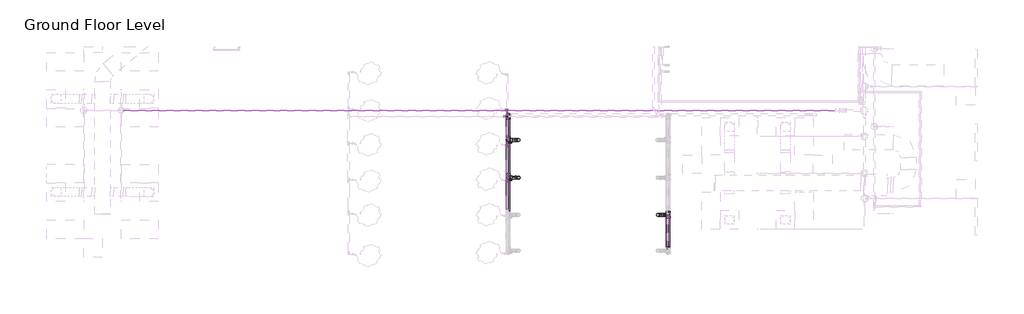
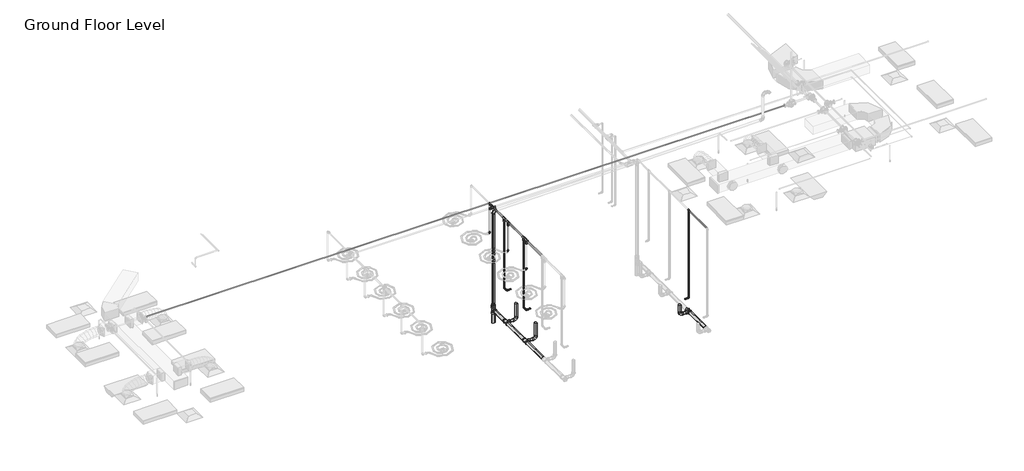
# One storey, part 5 of 75: 33 pipe segments, 30 pipe fittings.
"""IFC4 building model written with IfcOpenShell, lengths in millimetres."""

from ifc_helpers import new_model, si_unit, point, frame, frame_2d, origin, place, context, project, spatial, circle_curve, trimmed, segment, composite_curve, outline, extrude, transform, mapped, element, save
from components import m_bend_pvc_sch_40_dwv_standard_a4b99d37, m_bend_pvc_sch_40_dwv_standard_0eeb11e1, m_reducer_pvc_sch_40_dwv_standard_9996614f, m_tee_reducing_sanitary_pvc_sch_40_dwv_standard_b49161a9, m_tee_reducing_sanitary_pvc_sch_40_dwv_standard_749dcb00, standard_517a5a8d, standard_72b35c3b, standard_bbae78af, standard_a995ec02, standard_96815b99, standard_f060d3e4, standard_6bd4b727, standard_8b9c3306, standard_77f9104c, standard_50f01f79

model = new_model("IFC4")

# Units and contexts
model_context = context("Model", 3, world=origin())
ifc_project = project(units=[si_unit("LENGTHUNIT", "METRE", prefix="MILLI")], contexts=[model_context])

# Site, building, storey
site = spatial("IfcSite", under=ifc_project)
building = spatial("IfcBuilding", under=site)
storey = spatial("IfcBuildingStorey", under=building, Name="Ground Floor Level", Elevation=900.0)

# Pipe fittings
placement = place(None, origin())
m_bend_pvc_sch_40_dwv_standard_shape = m_bend_pvc_sch_40_dwv_standard_a4b99d37(model_context)
element("IfcPipeFitting", 1, ObjectType="M_Bend - PVC - Sch 40 - DWV : Standard", at=placement, inside=storey, context=model_context, shape_type="MappedRepresentation", body=[
    mapped(m_bend_pvc_sch_40_dwv_standard_shape, transform((-968.6302333, -39402.8025066, 463.1166236), x_axis=(0.0, 0.0, -1.0), y_axis=(1.0, 0.0, 0.0), z_axis=(0.0, -1.0, 0.0))),
])
element("IfcPipeFitting", 2, ObjectType="M_Bend - PVC - Sch 40 - DWV : Standard", at=placement, inside=storey, context=model_context, shape_type="MappedRepresentation", body=[
    mapped(m_bend_pvc_sch_40_dwv_standard_shape, transform((-5437.0260633, -38202.7929166, 403.2348266), x_axis=(0.0, 0.0, -1.0), y_axis=(-1.0, 0.0, 0.0), z_axis=(0.0, 1.0, 0.0))),
])
element("IfcPipeFitting", 3, ObjectType="M_Bend - PVC - Sch 40 - DWV : Standard", at=placement, inside=storey, context=model_context, shape_type="MappedRepresentation", body=[
    mapped(m_bend_pvc_sch_40_dwv_standard_shape, transform((-5437.0260633, -36991.6976494, 391.1238739), x_axis=(0.0, 0.0, -1.0), y_axis=(-1.0, 0.0, 0.0), z_axis=(0.0, 1.0, 0.0))),
])
m_bend_pvc_sch_40_dwv_standard_2_shape = m_bend_pvc_sch_40_dwv_standard_0eeb11e1(model_context)
element("IfcPipeFitting", 4, ObjectType="M_Bend - PVC - Sch 40 - DWV : Standard", at=placement, inside=storey, context=model_context, shape_type="MappedRepresentation", body=[
    mapped(m_bend_pvc_sch_40_dwv_standard_2_shape, transform((-5783.0674798, -36176.1401483, 4112.6152603), x_axis=(0.0, 0.0, 1.0), y_axis=(1.0, 0.0, 0.0), z_axis=(0.0, 1.0, 0.0))),
])
m_reducer_pvc_sch_40_dwv_standard_shape = m_reducer_pvc_sch_40_dwv_standard_9996614f(model_context)
element("IfcPipeFitting", 5, ObjectType="M_Reducer - PVC - Sch 40 - DWV : Standard", at=placement, inside=storey, context=model_context, shape_type="MappedRepresentation", body=[
    mapped(m_reducer_pvc_sch_40_dwv_standard_shape, transform((-5783.0674798, -36176.1401483, 505.0), x_axis=(0.0, 0.0, 1.0), y_axis=(0.0, 1.0, 0.0), z_axis=(-1.0, 0.0, 0.0))),
])
m_tee_reducing_sanitary_pvc_sch_40_dwv_standard_shape = m_tee_reducing_sanitary_pvc_sch_40_dwv_standard_b49161a9(model_context)
element("IfcPipeFitting", 6, ObjectType="M_Tee Reducing Sanitary - PVC - Sch 40 - DWV : Standard", at=placement, inside=storey, context=model_context, shape_type="MappedRepresentation", body=[
    mapped(m_tee_reducing_sanitary_pvc_sch_40_dwv_standard_shape, transform((-633.5600391, -39402.8010068, 463.2666086), x_axis=(0.0, -0.9999500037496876, 0.009999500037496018), y_axis=(1.0, 0.0, 0.0), z_axis=(0.0, 0.009999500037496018, 0.9999500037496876))),
])
element("IfcPipeFitting", 7, ObjectType="M_Tee Reducing Sanitary - PVC - Sch 40 - DWV : Standard", at=placement, inside=storey, context=model_context, shape_type="MappedRepresentation", body=[
    mapped(m_tee_reducing_sanitary_pvc_sch_40_dwv_standard_shape, transform((-5783.0674798, -38202.7914168, 403.3848116), x_axis=(0.0, -0.9999500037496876, 0.009999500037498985), y_axis=(-1.0000000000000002, 0.0, 0.0), z_axis=(0.0, -0.009999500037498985, -0.9999500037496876))),
])
element("IfcPipeFitting", 8, ObjectType="M_Tee Reducing Sanitary - PVC - Sch 40 - DWV : Standard", at=placement, inside=storey, context=model_context, shape_type="MappedRepresentation", body=[
    mapped(m_tee_reducing_sanitary_pvc_sch_40_dwv_standard_shape, transform((-5783.0674798, -36991.6961495, 391.2738589), x_axis=(0.0, -0.9999500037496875, 0.009999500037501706), y_axis=(-1.0, 0.0, 0.0), z_axis=(0.0, -0.009999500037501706, -0.9999500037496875))),
])
m_tee_reducing_sanitary_pvc_sch_40_dwv_standard_2_shape = m_tee_reducing_sanitary_pvc_sch_40_dwv_standard_749dcb00(model_context)
element("IfcPipeFitting", 9, ObjectType="M_Tee Reducing Sanitary - PVC - Sch 40 - DWV : Standard", at=placement, inside=storey, context=model_context, shape_type="MappedRepresentation", body=[
    mapped(m_tee_reducing_sanitary_pvc_sch_40_dwv_standard_2_shape, transform((-5783.0674798, -36176.1401483, 383.1182989), x_axis=(0.0, 0.0, 1.0), y_axis=(0.0, 1.0, 0.0), z_axis=(-1.0, 0.0, 0.0))),
])
standard_shape = standard_517a5a8d(model_context)
element("IfcPipeFitting", 10, ObjectType="M_Elbow - CPVC - Sch 40 : Standard", at=placement, inside=storey, context=model_context, shape_type="MappedRepresentation", body=[
    mapped(standard_shape, transform((-5815.4900472, -36012.7835466, 3200.0), x_axis=(0.0, 0.0, -1.0), y_axis=(-1.0, 0.0, 0.0), z_axis=(0.0, 1.0, 0.0))),
])
element("IfcPipeFitting", 11, ObjectType="M_Elbow - CPVC - Sch 40 : Standard", at=placement, inside=storey, context=model_context, shape_type="MappedRepresentation", body=[
    mapped(standard_shape, transform((-5815.4900472, -37152.7833366, 3200.0), x_axis=(1.0, 0.0, 0.0), y_axis=(0.0, 0.0, 1.0), z_axis=(0.0, -1.0, 0.0))),
])
element("IfcPipeFitting", 12, ObjectType="M_Elbow - CPVC - Sch 40 : Standard", at=placement, inside=storey, context=model_context, shape_type="MappedRepresentation", body=[
    mapped(standard_shape, transform((-5815.4900472, -38292.7833266, 3200.0), x_axis=(1.0, 0.0, 0.0), y_axis=(0.0, 0.0, 1.0), z_axis=(0.0, -1.0, 0.0))),
])
element("IfcPipeFitting", 13, ObjectType="M_Elbow - CPVC - Sch 40 : Standard", at=placement, inside=storey, context=model_context, shape_type="MappedRepresentation", body=[
    mapped(standard_shape, transform((-5815.4900472, -37065.1364156, 1655.0), x_axis=(0.0, -1.0, 0.0), y_axis=(1.0, 0.0, 0.0), z_axis=(0.0, 0.0, 1.0))),
])
element("IfcPipeFitting", 14, ObjectType="M_Elbow - CPVC - Sch 40 : Standard", at=placement, inside=storey, context=model_context, shape_type="MappedRepresentation", body=[
    mapped(standard_shape, transform((-5815.4900472, -36905.1364156, 1655.0), x_axis=(0.0, 1.0, 0.0), y_axis=(0.0, 0.0, 1.0), z_axis=(1.0, 0.0, 0.0))),
])
element("IfcPipeFitting", 15, ObjectType="M_Elbow - CPVC - Sch 40 : Standard", at=placement, inside=storey, context=model_context, shape_type="MappedRepresentation", body=[
    mapped(standard_shape, transform((-5815.4900472, -38116.2334627, 1655.0), x_axis=(0.0, 1.0, 0.0), y_axis=(0.0, 0.0, 1.0), z_axis=(1.0, 0.0, 0.0))),
])
standard_2_shape = standard_72b35c3b(model_context)
element("IfcPipeFitting", 16, ObjectType="M_Tee - CPVC - Sch 40 : Standard", at=placement, inside=storey, context=model_context, shape_type="MappedRepresentation", body=[
    mapped(standard_2_shape, transform((-639.6485359, -39402.8025066, 4300.0), x_axis=(0.0, -1.0, 0.0), y_axis=(0.0, 0.0, 1.0), z_axis=(-1.0, 0.0, 0.0))),
])
element("IfcPipeFitting", 17, ObjectType="M_Tee - CPVC - Sch 40 : Standard", at=placement, inside=storey, context=model_context, shape_type="MappedRepresentation", body=[
    mapped(standard_2_shape, transform((-5815.4900472, -36012.7835466, 4300.0), x_axis=(0.0, 1.0, 0.0), y_axis=(0.0, 0.0, 1.0), z_axis=(1.0, 0.0, 0.0))),
])
standard_3_shape = standard_bbae78af(model_context)
element("IfcPipeFitting", 18, ObjectType="M_Tee - CPVC - Sch 40 : Standard", at=placement, inside=storey, context=model_context, shape_type="MappedRepresentation", body=[
    mapped(standard_3_shape, transform((-5815.4900472, -37152.7833366, 4300.0), x_axis=(0.0, 1.0, 0.0), y_axis=(0.0, 0.0, 1.0), z_axis=(1.0, 0.0, 0.0))),
])
element("IfcPipeFitting", 19, ObjectType="M_Tee - CPVC - Sch 40 : Standard", at=placement, inside=storey, context=model_context, shape_type="MappedRepresentation", body=[
    mapped(standard_3_shape, transform((-5815.4900472, -38292.7833266, 4300.0), x_axis=(0.0, 1.0, 0.0), y_axis=(0.0, 0.0, 1.0), z_axis=(1.0, 0.0, 0.0))),
])
element("IfcPipeFitting", 20, ObjectType="M_Tee - CPVC - Sch 40 : Standard", at=placement, inside=storey, context=model_context, shape_type="MappedRepresentation", body=[
    mapped(standard_3_shape, transform((-5815.4900472, -36905.1364156, 4300.0), x_axis=(0.0, 1.0, 0.0), y_axis=(0.0, 0.0, 1.0), z_axis=(1.0, 0.0, 0.0))),
])
element("IfcPipeFitting", 21, ObjectType="M_Tee - CPVC - Sch 40 : Standard", at=placement, inside=storey, context=model_context, shape_type="MappedRepresentation", body=[
    mapped(standard_3_shape, transform((-5815.4900472, -38116.2334627, 4300.0), x_axis=(0.0, 1.0, 0.0), y_axis=(0.0, 0.0, 1.0), z_axis=(1.0, 0.0, 0.0))),
])
standard_4_shape = standard_a995ec02(model_context)
element("IfcPipeFitting", 22, ObjectType="M_Coupling Reducing - CPVC - Sch 40 : Standard", at=placement, inside=storey, context=model_context, shape_type="MappedRepresentation", body=[
    mapped(standard_4_shape, transform((-5877.4152472, -36234.6855451, 4300.0), x_axis=(-1.0, 0.0, 0.0), y_axis=(0.0, -1.0, 0.0), z_axis=(0.0, 0.0, 1.0))),
])
standard_5_shape = standard_96815b99(model_context)
element("IfcPipeFitting", 23, ObjectType="M_Elbow - CPVC - Sch 40 : Standard", at=placement, inside=storey, context=model_context, shape_type="MappedRepresentation", body=[
    mapped(standard_5_shape, transform((-639.6485359, -39402.8025066, 983.4999978), x_axis=(0.0, 0.0, -1.0), y_axis=(-1.0, 0.0, 0.0), z_axis=(0.0, 1.0, 0.0))),
])
standard_6_shape = standard_f060d3e4(model_context)
element("IfcPipeFitting", 24, ObjectType="M_Cross - CPVC - Sch 40 : Standard", at=placement, inside=storey, context=model_context, shape_type="MappedRepresentation", body=[
    mapped(standard_6_shape, transform((-5815.4900472, -36234.6855451, 4300.0), x_axis=(1.0, 0.0, 0.0), y_axis=(0.0, 1.0, 0.0), z_axis=(0.0, 0.0, 1.0))),
])
standard_7_shape = standard_6bd4b727(model_context)
element("IfcPipeFitting", 25, ObjectType="M_Coupling Reducing - CPVC - Sch 40 : Standard", at=placement, inside=storey, context=model_context, shape_type="MappedRepresentation", body=[
    mapped(standard_7_shape, transform((-5815.4900472, -36100.5614701, 4300.0), x_axis=(0.0, -1.0, 0.0), y_axis=(1.0, 0.0, 0.0), z_axis=(0.0, 0.0, 1.0))),
])
standard_8_shape = standard_8b9c3306(model_context)
element("IfcPipeFitting", 26, ObjectType="M_Coupling Reducing - CPVC - Sch 40 : Standard", at=placement, inside=storey, context=model_context, shape_type="MappedRepresentation", body=[
    mapped(standard_8_shape, transform((-5815.4900472, -37152.7833366, 4241.2498), x_axis=(0.0, 0.0, -1.0), y_axis=(-1.0, 0.0, 0.0), z_axis=(0.0, 1.0, 0.0))),
])
element("IfcPipeFitting", 27, ObjectType="M_Coupling Reducing - CPVC - Sch 40 : Standard", at=placement, inside=storey, context=model_context, shape_type="MappedRepresentation", body=[
    mapped(standard_8_shape, transform((-5815.4900472, -38292.7833266, 4241.2498), x_axis=(0.0, 0.0, -1.0), y_axis=(-1.0, 0.0, 0.0), z_axis=(0.0, 1.0, 0.0))),
])
standard_9_shape = standard_77f9104c(model_context)
element("IfcPipeFitting", 28, ObjectType="M_Coupling Reducing - CPVC - Sch 40 : Standard", at=placement, inside=storey, context=model_context, shape_type="MappedRepresentation", body=[
    mapped(standard_9_shape, transform((-5815.4900472, -36905.1364156, 4241.2498), x_axis=(0.0, 0.0, -1.0), y_axis=(0.0, -1.0, 0.0), z_axis=(-1.0, 0.0, 0.0))),
])
element("IfcPipeFitting", 29, ObjectType="M_Coupling Reducing - CPVC - Sch 40 : Standard", at=placement, inside=storey, context=model_context, shape_type="MappedRepresentation", body=[
    mapped(standard_9_shape, transform((-5815.4900472, -38116.2334627, 4241.2498), x_axis=(0.0, 0.0, -1.0), y_axis=(0.0, -1.0, 0.0), z_axis=(-1.0, 0.0, 0.0))),
])
standard_10_shape = standard_50f01f79(model_context)
element("IfcPipeFitting", 30, ObjectType="M_Elbow - CPVC - Sch 40 : Standard", at=placement, inside=storey, context=model_context, shape_type="MappedRepresentation", body=[
    mapped(standard_10_shape, transform((-5815.4900472, -38276.2334627, 1655.0), x_axis=(0.0, -1.0, 0.0), y_axis=(1.0, 0.0, 0.0), z_axis=(0.0, 0.0, 1.0))),
])

# Pipe segments
element("IfcPipeSegment", 31, ObjectType="CPVC", at=placement, inside=storey, context=model_context, shape_type="SweptSolid", body=[
    extrude(outline(composite_curve([segment(trimmed(circle_curve(frame_2d((4300.0, -639.6485359)), 16.7005), [point((4300.0, -656.3490359))], [point((4283.2995, -639.6485359))], False, "CARTESIAN"), True, "CONTINUOUS"), segment(trimmed(circle_curve(frame_2d((4300.0, -639.6485359)), 16.7005), [point((4283.2995, -639.6485359))], [point((4300.0, -622.9480359))], False, "CARTESIAN"), True, "CONTINUOUS"), segment(trimmed(circle_curve(frame_2d((4300.0, -639.6485359)), 16.7005), [point((4300.0, -622.9480359))], [point((4316.7005, -639.6485359))], False, "CARTESIAN"), True, "CONTINUOUS"), segment(trimmed(circle_curve(frame_2d((4300.0, -639.6485359)), 16.7005), [point((4316.7005, -639.6485359))], [point((4300.0, -656.3490359))], False, "CARTESIAN"), True, "CONTINUOUS")], self_intersect=False)), frame((0.0, -40511.5220966, 0.0), z_axis=(0.0, 1.0, 0.0), x_axis=(0.0, 0.0, 1.0)), (0.0, 0.0, 1.0), 1069.01939),
])
element("IfcPipeSegment", 32, ObjectType="CPVC", at=placement, inside=storey, context=model_context, shape_type="SweptSolid", body=[
    extrude(outline(composite_curve([segment(trimmed(circle_curve(frame_2d((-39402.8025066, 983.4999921)), 16.7005), [point((-39386.1020066, 983.4999921))], [point((-39402.8025066, 966.7994921))], False, "CARTESIAN"), True, "CONTINUOUS"), segment(trimmed(circle_curve(frame_2d((-39402.8025066, 983.4999921)), 16.7005), [point((-39402.8025066, 966.7994921))], [point((-39419.5030066, 983.4999921))], False, "CARTESIAN"), True, "CONTINUOUS"), segment(trimmed(circle_curve(frame_2d((-39402.8025066, 983.4999921)), 16.7005), [point((-39419.5030066, 983.4999921))], [point((-39402.8025066, 1000.2004921))], False, "CARTESIAN"), True, "CONTINUOUS"), segment(trimmed(circle_curve(frame_2d((-39402.8025066, 983.4999921)), 16.7005), [point((-39402.8025066, 1000.2004921))], [point((-39386.1020066, 983.4999921))], False, "CARTESIAN"), True, "CONTINUOUS")], self_intersect=False)), frame((-782.4615578, 0.0, 0.0), z_axis=(1.0, 0.0, 0.0), x_axis=(0.0, 1.0, 0.0)), (0.0, 0.0, 1.0), 99.5504746),
])
element("IfcPipeSegment", 33, ObjectType="CPVC", at=placement, inside=storey, context=model_context, shape_type="SweptSolid", body=[
    extrude(outline(composite_curve([segment(trimmed(circle_curve(frame_2d((-639.6485359, -39402.8025066)), 16.7005), [point((-622.9480359, -39402.8025066))], [point((-639.6485359, -39419.5030066))], False, "CARTESIAN"), True, "CONTINUOUS"), segment(trimmed(circle_curve(frame_2d((-639.6485359, -39402.8025066)), 16.7005), [point((-639.6485359, -39419.5030066))], [point((-656.3490359, -39402.8025066))], False, "CARTESIAN"), True, "CONTINUOUS"), segment(trimmed(circle_curve(frame_2d((-639.6485359, -39402.8025066)), 16.7005), [point((-656.3490359, -39402.8025066))], [point((-639.6485359, -39386.1020066))], False, "CARTESIAN"), True, "CONTINUOUS"), segment(trimmed(circle_curve(frame_2d((-639.6485359, -39402.8025066)), 16.7005), [point((-639.6485359, -39386.1020066))], [point((-622.9480359, -39402.8025066))], False, "CARTESIAN"), True, "CONTINUOUS")], self_intersect=False)), frame((0.0, 0.0, 1026.762545), z_axis=(0.0, 0.0, 1.0), x_axis=(1.0, 0.0, 0.0)), (0.0, 0.0, 1.0), 3233.537255),
])
element("IfcPipeSegment", 34, ObjectType="CPVC", at=placement, inside=storey, context=model_context, shape_type="SweptSolid", body=[
    extrude(outline(composite_curve([segment(trimmed(circle_curve(frame_2d((4300.0, -5815.4900472)), 16.7005), [point((4300.0, -5832.1905472))], [point((4283.2995, -5815.4900472))], False, "CARTESIAN"), True, "CONTINUOUS"), segment(trimmed(circle_curve(frame_2d((4300.0, -5815.4900472)), 16.7005), [point((4283.2995, -5815.4900472))], [point((4300.0, -5798.7895472))], False, "CARTESIAN"), True, "CONTINUOUS"), segment(trimmed(circle_curve(frame_2d((4300.0, -5815.4900472)), 16.7005), [point((4300.0, -5798.7895472))], [point((4316.7005, -5815.4900472))], False, "CARTESIAN"), True, "CONTINUOUS"), segment(trimmed(circle_curve(frame_2d((4300.0, -5815.4900472)), 16.7005), [point((4316.7005, -5815.4900472))], [point((4300.0, -5832.1905472))], False, "CARTESIAN"), True, "CONTINUOUS")], self_intersect=False)), frame((0.0, -36100.5614701, 0.0), z_axis=(0.0, 1.0, 0.0), x_axis=(0.0, 0.0, 1.0)), (0.0, 0.0, 1.0), 48.0777235),
])
element("IfcPipeSegment", 35, ObjectType="CPVC", at=placement, inside=storey, context=model_context, shape_type="SweptSolid", body=[
    extrude(outline(composite_curve([segment(trimmed(circle_curve(frame_2d((-36012.7835466, 3200.0)), 16.7005), [point((-35996.0830466, 3200.0))], [point((-36012.7835466, 3183.2995))], False, "CARTESIAN"), True, "CONTINUOUS"), segment(trimmed(circle_curve(frame_2d((-36012.7835466, 3200.0)), 16.7005), [point((-36012.7835466, 3183.2995))], [point((-36029.4840466, 3200.0))], False, "CARTESIAN"), True, "CONTINUOUS"), segment(trimmed(circle_curve(frame_2d((-36012.7835466, 3200.0)), 16.7005), [point((-36029.4840466, 3200.0))], [point((-36012.7835466, 3216.7005))], False, "CARTESIAN"), True, "CONTINUOUS"), segment(trimmed(circle_curve(frame_2d((-36012.7835466, 3200.0)), 16.7005), [point((-36012.7835466, 3216.7005))], [point((-35996.0830466, 3200.0))], False, "CARTESIAN"), True, "CONTINUOUS")], self_intersect=False)), frame((-5868.9493142, 0.0, 0.0), z_axis=(1.0, 0.0, 0.0), x_axis=(0.0, 1.0, 0.0)), (0.0, 0.0, 1.0), 10.1967171),
])
element("IfcPipeSegment", 36, ObjectType="CPVC", at=placement, inside=storey, context=model_context, shape_type="SweptSolid", body=[
    extrude(outline(composite_curve([segment(trimmed(circle_curve(frame_2d((-5815.4900472, -36012.7835466)), 16.7005), [point((-5798.7895472, -36012.7835466))], [point((-5815.4900472, -36029.4840466))], False, "CARTESIAN"), True, "CONTINUOUS"), segment(trimmed(circle_curve(frame_2d((-5815.4900472, -36012.7835466)), 16.7005), [point((-5815.4900472, -36029.4840466))], [point((-5832.1905472, -36012.7835466))], False, "CARTESIAN"), True, "CONTINUOUS"), segment(trimmed(circle_curve(frame_2d((-5815.4900472, -36012.7835466)), 16.7005), [point((-5832.1905472, -36012.7835466))], [point((-5815.4900472, -35996.0830466))], False, "CARTESIAN"), True, "CONTINUOUS"), segment(trimmed(circle_curve(frame_2d((-5815.4900472, -36012.7835466)), 16.7005), [point((-5815.4900472, -35996.0830466))], [point((-5798.7895472, -36012.7835466))], False, "CARTESIAN"), True, "CONTINUOUS")], self_intersect=False)), frame((0.0, 0.0, 3243.26255), z_axis=(0.0, 0.0, 1.0), x_axis=(1.0, 0.0, 0.0)), (0.0, 0.0, 1.0), 1017.03725),
])
element("IfcPipeSegment", 37, ObjectType="CPVC", at=placement, inside=storey, context=model_context, shape_type="SweptSolid", body=[
    extrude(outline(composite_curve([segment(trimmed(circle_curve(frame_2d((-37152.7833366, 3200.0)), 16.7005), [point((-37169.4838366, 3200.0))], [point((-37152.7833366, 3216.7005))], False, "CARTESIAN"), True, "CONTINUOUS"), segment(trimmed(circle_curve(frame_2d((-37152.7833366, 3200.0)), 16.7005), [point((-37152.7833366, 3216.7005))], [point((-37136.0828366, 3200.0))], False, "CARTESIAN"), True, "CONTINUOUS"), segment(trimmed(circle_curve(frame_2d((-37152.7833366, 3200.0)), 16.7005), [point((-37136.0828366, 3200.0))], [point((-37152.7833366, 3183.2995))], False, "CARTESIAN"), True, "CONTINUOUS"), segment(trimmed(circle_curve(frame_2d((-37152.7833366, 3200.0)), 16.7005), [point((-37152.7833366, 3183.2995))], [point((-37169.4838366, 3200.0))], False, "CARTESIAN"), True, "CONTINUOUS")], self_intersect=False)), frame((-5868.9493142, 0.0, 0.0), z_axis=(1.0, 0.0, 0.0), x_axis=(0.0, 1.0, 0.0)), (0.0, 0.0, 1.0), 10.1967171),
])
element("IfcPipeSegment", 38, ObjectType="CPVC", at=placement, inside=storey, context=model_context, shape_type="SweptSolid", body=[
    extrude(outline(composite_curve([segment(trimmed(circle_curve(frame_2d((-5815.4900472, -37152.7833366)), 16.7005), [point((-5832.1905472, -37152.7833366))], [point((-5815.4900472, -37136.0828366))], False, "CARTESIAN"), True, "CONTINUOUS"), segment(trimmed(circle_curve(frame_2d((-5815.4900472, -37152.7833366)), 16.7005), [point((-5815.4900472, -37136.0828366))], [point((-5798.7895472, -37152.7833366))], False, "CARTESIAN"), True, "CONTINUOUS"), segment(trimmed(circle_curve(frame_2d((-5815.4900472, -37152.7833366)), 16.7005), [point((-5798.7895472, -37152.7833366))], [point((-5815.4900472, -37169.4838366))], False, "CARTESIAN"), True, "CONTINUOUS"), segment(trimmed(circle_curve(frame_2d((-5815.4900472, -37152.7833366)), 16.7005), [point((-5815.4900472, -37169.4838366))], [point((-5832.1905472, -37152.7833366))], False, "CARTESIAN"), True, "CONTINUOUS")], self_intersect=False)), frame((0.0, 0.0, 3243.26255), z_axis=(0.0, 0.0, 1.0), x_axis=(1.0, 0.0, 0.0)), (0.0, 0.0, 1.0), 925.788375),
])
element("IfcPipeSegment", 39, ObjectType="CPVC", at=placement, inside=storey, context=model_context, shape_type="SweptSolid", body=[
    extrude(outline(composite_curve([segment(trimmed(circle_curve(frame_2d((4300.0, -5815.4900472)), 24.13), [point((4300.0, -5839.6200472))], [point((4275.87, -5815.4900472))], False, "CARTESIAN"), True, "CONTINUOUS"), segment(trimmed(circle_curve(frame_2d((4300.0, -5815.4900472)), 24.13), [point((4275.87, -5815.4900472))], [point((4300.0, -5791.3600472))], False, "CARTESIAN"), True, "CONTINUOUS"), segment(trimmed(circle_curve(frame_2d((4300.0, -5815.4900472)), 24.13), [point((4300.0, -5791.3600472))], [point((4324.13, -5815.4900472))], False, "CARTESIAN"), True, "CONTINUOUS"), segment(trimmed(circle_curve(frame_2d((4300.0, -5815.4900472)), 24.13), [point((4324.13, -5815.4900472))], [point((4300.0, -5839.6200472))], False, "CARTESIAN"), True, "CONTINUOUS")], self_intersect=False)), frame((0.0, -37094.0331366, 0.0), z_axis=(0.0, 1.0, 0.0), x_axis=(0.0, 0.0, 1.0)), (0.0, 0.0, 1.0), 130.146521),
])
element("IfcPipeSegment", 40, ObjectType="CPVC", at=placement, inside=storey, context=model_context, shape_type="SweptSolid", body=[
    extrude(outline(composite_curve([segment(trimmed(circle_curve(frame_2d((4300.0, -5815.4900472)), 24.13), [point((4300.0, -5839.6200472))], [point((4275.87, -5815.4900472))], False, "CARTESIAN"), True, "CONTINUOUS"), segment(trimmed(circle_curve(frame_2d((4300.0, -5815.4900472)), 24.13), [point((4275.87, -5815.4900472))], [point((4300.0, -5791.3600472))], False, "CARTESIAN"), True, "CONTINUOUS"), segment(trimmed(circle_curve(frame_2d((4300.0, -5815.4900472)), 24.13), [point((4300.0, -5791.3600472))], [point((4324.13, -5815.4900472))], False, "CARTESIAN"), True, "CONTINUOUS"), segment(trimmed(circle_curve(frame_2d((4300.0, -5815.4900472)), 24.13), [point((4324.13, -5815.4900472))], [point((4300.0, -5839.6200472))], False, "CARTESIAN"), True, "CONTINUOUS")], self_intersect=False)), frame((0.0, -38234.0331266, 0.0), z_axis=(0.0, 1.0, 0.0), x_axis=(0.0, 0.0, 1.0)), (0.0, 0.0, 1.0), 59.0494639),
])
element("IfcPipeSegment", 41, ObjectType="CPVC", at=placement, inside=storey, context=model_context, shape_type="SweptSolid", body=[
    extrude(outline(composite_curve([segment(trimmed(circle_curve(frame_2d((-37065.1364156, 1655.0)), 16.7005), [point((-37048.4359156, 1655.0))], [point((-37065.1364156, 1638.2995))], False, "CARTESIAN"), True, "CONTINUOUS"), segment(trimmed(circle_curve(frame_2d((-37065.1364156, 1655.0)), 16.7005), [point((-37065.1364156, 1638.2995))], [point((-37081.8369156, 1655.0))], False, "CARTESIAN"), True, "CONTINUOUS"), segment(trimmed(circle_curve(frame_2d((-37065.1364156, 1655.0)), 16.7005), [point((-37081.8369156, 1655.0))], [point((-37065.1364156, 1671.7005))], False, "CARTESIAN"), True, "CONTINUOUS"), segment(trimmed(circle_curve(frame_2d((-37065.1364156, 1655.0)), 16.7005), [point((-37065.1364156, 1671.7005))], [point((-37048.4359156, 1655.0))], False, "CARTESIAN"), True, "CONTINUOUS")], self_intersect=False)), frame((-5772.2274972, 0.0, 0.0), z_axis=(1.0, 0.0, 0.0), x_axis=(0.0, 1.0, 0.0)), (0.0, 0.0, 1.0), 101.6587367),
])
element("IfcPipeSegment", 42, ObjectType="CPVC", at=placement, inside=storey, context=model_context, shape_type="SweptSolid", body=[
    extrude(outline(composite_curve([segment(trimmed(circle_curve(frame_2d((1655.0, -5815.4900472)), 16.7005), [point((1655.0, -5798.7895472))], [point((1671.7005, -5815.4900472))], False, "CARTESIAN"), True, "CONTINUOUS"), segment(trimmed(circle_curve(frame_2d((1655.0, -5815.4900472)), 16.7005), [point((1671.7005, -5815.4900472))], [point((1655.0, -5832.1905472))], False, "CARTESIAN"), True, "CONTINUOUS"), segment(trimmed(circle_curve(frame_2d((1655.0, -5815.4900472)), 16.7005), [point((1655.0, -5832.1905472))], [point((1638.2995, -5815.4900472))], False, "CARTESIAN"), True, "CONTINUOUS"), segment(trimmed(circle_curve(frame_2d((1655.0, -5815.4900472)), 16.7005), [point((1638.2995, -5815.4900472))], [point((1655.0, -5798.7895472))], False, "CARTESIAN"), True, "CONTINUOUS")], self_intersect=False)), frame((0.0, -37021.8738656, 0.0), z_axis=(0.0, 1.0, 0.0), x_axis=(0.0, 0.0, 1.0)), (0.0, 0.0, 1.0), 73.4749),
])
element("IfcPipeSegment", 43, ObjectType="CPVC", at=placement, inside=storey, context=model_context, shape_type="SweptSolid", body=[
    extrude(outline(composite_curve([segment(trimmed(circle_curve(frame_2d((0.0, 16.7005)), 16.7005), [point((-16.7005, 16.7005))], [point((0.0, 33.401))], False, "CARTESIAN"), True, "CONTINUOUS"), segment(trimmed(circle_curve(frame_2d((0.0, 16.7005)), 16.7005), [point((0.0, 33.401))], [point((16.7005, 16.7005))], False, "CARTESIAN"), True, "CONTINUOUS"), segment(trimmed(circle_curve(frame_2d((0.0, 16.7005)), 16.7005), [point((16.7005, 16.7005))], [point((0.0, 0.0))], False, "CARTESIAN"), True, "CONTINUOUS"), segment(trimmed(circle_curve(frame_2d((0.0, 16.7005)), 16.7005), [point((0.0, 0.0))], [point((-16.7005, 16.7005))], False, "CARTESIAN"), True, "CONTINUOUS")], self_intersect=False)), frame((-5772.2272388, -38276.2329314, 1638.2995), z_axis=(0.9999999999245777, 1.2281885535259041e-05, 0.0), x_axis=(-1.2281885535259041e-05, 0.9999999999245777, 0.0)), (0.0, 0.0, 1.0), 101.6584783),
])
element("IfcPipeSegment", 44, ObjectType="CPVC", at=placement, inside=storey, context=model_context, shape_type="SweptSolid", body=[
    extrude(outline(composite_curve([segment(trimmed(circle_curve(frame_2d((1655.0, -5815.4900472)), 16.7005), [point((1655.0, -5798.7895472))], [point((1671.7005, -5815.4900472))], False, "CARTESIAN"), True, "CONTINUOUS"), segment(trimmed(circle_curve(frame_2d((1655.0, -5815.4900472)), 16.7005), [point((1671.7005, -5815.4900472))], [point((1655.0, -5832.1905472))], False, "CARTESIAN"), True, "CONTINUOUS"), segment(trimmed(circle_curve(frame_2d((1655.0, -5815.4900472)), 16.7005), [point((1655.0, -5832.1905472))], [point((1638.2995, -5815.4900472))], False, "CARTESIAN"), True, "CONTINUOUS"), segment(trimmed(circle_curve(frame_2d((1655.0, -5815.4900472)), 16.7005), [point((1638.2995, -5815.4900472))], [point((1655.0, -5798.7895472))], False, "CARTESIAN"), True, "CONTINUOUS")], self_intersect=False)), frame((0.0, -38232.9706544, 0.0), z_axis=(0.0, 1.0, 0.0), x_axis=(0.0, 0.0, 1.0)), (0.0, 0.0, 1.0), 73.4746416),
])
element("IfcPipeSegment", 45, ObjectType="CPVC", at=placement, inside=storey, context=model_context, shape_type="SweptSolid", body=[
    extrude(outline(composite_curve([segment(trimmed(circle_curve(frame_2d((-5815.4900472, -36905.1364156)), 16.7005), [point((-5798.7895472, -36905.1364156))], [point((-5815.4900472, -36921.8369156))], False, "CARTESIAN"), True, "CONTINUOUS"), segment(trimmed(circle_curve(frame_2d((-5815.4900472, -36905.1364156)), 16.7005), [point((-5815.4900472, -36921.8369156))], [point((-5832.1905472, -36905.1364156))], False, "CARTESIAN"), True, "CONTINUOUS"), segment(trimmed(circle_curve(frame_2d((-5815.4900472, -36905.1364156)), 16.7005), [point((-5832.1905472, -36905.1364156))], [point((-5815.4900472, -36888.4359156))], False, "CARTESIAN"), True, "CONTINUOUS"), segment(trimmed(circle_curve(frame_2d((-5815.4900472, -36905.1364156)), 16.7005), [point((-5815.4900472, -36888.4359156))], [point((-5798.7895472, -36905.1364156))], False, "CARTESIAN"), True, "CONTINUOUS")], self_intersect=False)), frame((0.0, 0.0, 1698.26255), z_axis=(0.0, 0.0, 1.0), x_axis=(1.0, 0.0, 0.0)), (0.0, 0.0, 1.0), 2470.788375),
])
element("IfcPipeSegment", 46, ObjectType="CPVC", at=placement, inside=storey, context=model_context, shape_type="SweptSolid", body=[
    extrude(outline(composite_curve([segment(trimmed(circle_curve(frame_2d((4300.0, -5815.4900472)), 24.13), [point((4300.0, -5839.6200472))], [point((4275.87, -5815.4900472))], False, "CARTESIAN"), True, "CONTINUOUS"), segment(trimmed(circle_curve(frame_2d((4300.0, -5815.4900472)), 24.13), [point((4275.87, -5815.4900472))], [point((4300.0, -5791.3600472))], False, "CARTESIAN"), True, "CONTINUOUS"), segment(trimmed(circle_curve(frame_2d((4300.0, -5815.4900472)), 24.13), [point((4300.0, -5791.3600472))], [point((4324.13, -5815.4900472))], False, "CARTESIAN"), True, "CONTINUOUS"), segment(trimmed(circle_curve(frame_2d((4300.0, -5815.4900472)), 24.13), [point((4324.13, -5815.4900472))], [point((4300.0, -5839.6200472))], False, "CARTESIAN"), True, "CONTINUOUS")], self_intersect=False)), frame((0.0, -36846.3862156, 0.0), z_axis=(0.0, 1.0, 0.0), x_axis=(0.0, 0.0, 1.0)), (0.0, 0.0, 1.0), 549.7754705),
])
element("IfcPipeSegment", 47, ObjectType="CPVC", at=placement, inside=storey, context=model_context, shape_type="SweptSolid", body=[
    extrude(outline(composite_curve([segment(trimmed(circle_curve(frame_2d((-5815.4900472, -38116.2334627)), 16.7005), [point((-5798.7895472, -38116.2334627))], [point((-5815.4900472, -38132.9339627))], False, "CARTESIAN"), True, "CONTINUOUS"), segment(trimmed(circle_curve(frame_2d((-5815.4900472, -38116.2334627)), 16.7005), [point((-5815.4900472, -38132.9339627))], [point((-5832.1905472, -38116.2334627))], False, "CARTESIAN"), True, "CONTINUOUS"), segment(trimmed(circle_curve(frame_2d((-5815.4900472, -38116.2334627)), 16.7005), [point((-5832.1905472, -38116.2334627))], [point((-5815.4900472, -38099.5329627))], False, "CARTESIAN"), True, "CONTINUOUS"), segment(trimmed(circle_curve(frame_2d((-5815.4900472, -38116.2334627)), 16.7005), [point((-5815.4900472, -38099.5329627))], [point((-5798.7895472, -38116.2334627))], False, "CARTESIAN"), True, "CONTINUOUS")], self_intersect=False)), frame((0.0, 0.0, 1698.26255), z_axis=(0.0, 0.0, 1.0), x_axis=(1.0, 0.0, 0.0)), (0.0, 0.0, 1.0), 2470.788375),
])
element("IfcPipeSegment", 48, ObjectType="CPVC", at=placement, inside=storey, context=model_context, shape_type="SweptSolid", body=[
    extrude(outline(composite_curve([segment(trimmed(circle_curve(frame_2d((4300.0, -5815.4900472)), 24.13), [point((4300.0, -5839.6200472))], [point((4275.87, -5815.4900472))], False, "CARTESIAN"), True, "CONTINUOUS"), segment(trimmed(circle_curve(frame_2d((4300.0, -5815.4900472)), 24.13), [point((4275.87, -5815.4900472))], [point((4300.0, -5791.3600472))], False, "CARTESIAN"), True, "CONTINUOUS"), segment(trimmed(circle_curve(frame_2d((4300.0, -5815.4900472)), 24.13), [point((4300.0, -5791.3600472))], [point((4324.13, -5815.4900472))], False, "CARTESIAN"), True, "CONTINUOUS"), segment(trimmed(circle_curve(frame_2d((4300.0, -5815.4900472)), 24.13), [point((4324.13, -5815.4900472))], [point((4300.0, -5839.6200472))], False, "CARTESIAN"), True, "CONTINUOUS")], self_intersect=False)), frame((0.0, -38057.4832627, 0.0), z_axis=(0.0, 1.0, 0.0), x_axis=(0.0, 0.0, 1.0)), (0.0, 0.0, 1.0), 845.9497261),
])
element("IfcPipeSegment", 49, ObjectType="CPVC", at=placement, inside=storey, context=model_context, shape_type="SweptSolid", body=[
    extrude(outline(composite_curve([segment(trimmed(circle_curve(frame_2d((4300.0, -5815.4900472)), 24.13), [point((4300.0, -5839.6200472))], [point((4275.87, -5815.4900472))], False, "CARTESIAN"), True, "CONTINUOUS"), segment(trimmed(circle_curve(frame_2d((4300.0, -5815.4900472)), 24.13), [point((4275.87, -5815.4900472))], [point((4300.0, -5791.3600472))], False, "CARTESIAN"), True, "CONTINUOUS"), segment(trimmed(circle_curve(frame_2d((4300.0, -5815.4900472)), 24.13), [point((4300.0, -5791.3600472))], [point((4324.13, -5815.4900472))], False, "CARTESIAN"), True, "CONTINUOUS"), segment(trimmed(circle_curve(frame_2d((4300.0, -5815.4900472)), 24.13), [point((4324.13, -5815.4900472))], [point((4300.0, -5839.6200472))], False, "CARTESIAN"), True, "CONTINUOUS")], self_intersect=False)), frame((0.0, -39217.4910728, 0.0), z_axis=(0.0, 1.0, 0.0), x_axis=(0.0, 0.0, 1.0)), (0.0, 0.0, 1.0), 865.9575462),
])
element("IfcPipeSegment", 50, ObjectType="PVC - DWV", at=placement, inside=storey, context=model_context, shape_type="SweptSolid", body=[
    extrude(outline(composite_curve([segment(trimmed(circle_curve(frame_2d((-968.6302333, -39402.8025066)), 44.45), [point((-924.1802333, -39402.8025066))], [point((-968.6302333, -39447.2525066))], False, "CARTESIAN"), True, "CONTINUOUS"), segment(trimmed(circle_curve(frame_2d((-968.6302333, -39402.8025066)), 44.45), [point((-968.6302333, -39447.2525066))], [point((-1013.0802333, -39402.8025066))], False, "CARTESIAN"), True, "CONTINUOUS"), segment(trimmed(circle_curve(frame_2d((-968.6302333, -39402.8025066)), 44.45), [point((-1013.0802333, -39402.8025066))], [point((-968.6302333, -39358.3525066))], False, "CARTESIAN"), True, "CONTINUOUS"), segment(trimmed(circle_curve(frame_2d((-968.6302333, -39402.8025066)), 44.45), [point((-968.6302333, -39358.3525066))], [point((-924.1802333, -39402.8025066))], False, "CARTESIAN"), True, "CONTINUOUS")], self_intersect=False)), frame((0.0, 0.0, 579.0168236), z_axis=(0.0, 0.0, 1.0), x_axis=(1.0, 0.0, 0.0)), (0.0, 0.0, 1.0), 251.651553),
])
element("IfcPipeSegment", 51, ObjectType="PVC - DWV", at=placement, inside=storey, context=model_context, shape_type="SweptSolid", body=[
    extrude(outline(composite_curve([segment(trimmed(circle_curve(frame_2d((-39402.8010068, 463.2666086)), 44.45), [point((-39447.2510068, 463.2666086))], [point((-39402.8010068, 507.7166086))], False, "CARTESIAN"), True, "CONTINUOUS"), segment(trimmed(circle_curve(frame_2d((-39402.8010068, 463.2666086)), 44.45), [point((-39402.8010068, 507.7166086))], [point((-39358.3510068, 463.2666086))], False, "CARTESIAN"), True, "CONTINUOUS"), segment(trimmed(circle_curve(frame_2d((-39402.8010068, 463.2666086)), 44.45), [point((-39358.3510068, 463.2666086))], [point((-39402.8010068, 418.8166086))], False, "CARTESIAN"), True, "CONTINUOUS"), segment(trimmed(circle_curve(frame_2d((-39402.8010068, 463.2666086)), 44.45), [point((-39402.8010068, 418.8166086))], [point((-39447.2510068, 463.2666086))], False, "CARTESIAN"), True, "CONTINUOUS")], self_intersect=False)), frame((-852.7300333, 0.0, 0.0), z_axis=(1.0, 0.0, 0.0), x_axis=(0.0, 1.0, 0.0)), (0.0, 0.0, 1.0), 90.5697942),
])
element("IfcPipeSegment", 52, ObjectType="PVC - DWV", at=placement, inside=storey, context=model_context, shape_type="SweptSolid", body=[
    extrude(outline(composite_curve([segment(trimmed(circle_curve(frame_2d((0.0, -57.1500001)), 57.15), [point((57.15, -57.1500001))], [point((0.0, -114.3000001))], False, "CARTESIAN"), True, "CONTINUOUS"), segment(trimmed(circle_curve(frame_2d((0.0, -57.1500001)), 57.15), [point((0.0, -114.3000001))], [point((-57.15, -57.1500001))], False, "CARTESIAN"), True, "CONTINUOUS"), segment(trimmed(circle_curve(frame_2d((0.0, -57.1500001)), 57.15), [point((-57.15, -57.1500001))], [point((0.0, 0.0))], False, "CARTESIAN"), True, "CONTINUOUS"), segment(trimmed(circle_curve(frame_2d((0.0, -57.1500001)), 57.15), [point((0.0, 0.0))], [point((57.15, -57.1500001))], False, "CARTESIAN"), True, "CONTINUOUS")], self_intersect=False)), frame((-633.5600391, -39491.1250907, 521.3027069), z_axis=(0.0, -0.9999500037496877, 0.009999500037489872), x_axis=(1.0, 0.0, 0.0)), (0.0, 0.0, 1.0), 942.4897377),
])
element("IfcPipeSegment", 53, ObjectType="PVC - DWV", at=placement, inside=storey, context=model_context, shape_type="SweptSolid", body=[
    extrude(outline(composite_curve([segment(trimmed(circle_curve(frame_2d((-5437.0260633, -38202.7929166)), 44.45), [point((-5392.5760633, -38202.7929166))], [point((-5437.0260633, -38247.2429166))], False, "CARTESIAN"), True, "CONTINUOUS"), segment(trimmed(circle_curve(frame_2d((-5437.0260633, -38202.7929166)), 44.45), [point((-5437.0260633, -38247.2429166))], [point((-5481.4760633, -38202.7929166))], False, "CARTESIAN"), True, "CONTINUOUS"), segment(trimmed(circle_curve(frame_2d((-5437.0260633, -38202.7929166)), 44.45), [point((-5481.4760633, -38202.7929166))], [point((-5437.0260633, -38158.3429166))], False, "CARTESIAN"), True, "CONTINUOUS"), segment(trimmed(circle_curve(frame_2d((-5437.0260633, -38202.7929166)), 44.45), [point((-5437.0260633, -38158.3429166))], [point((-5392.5760633, -38202.7929166))], False, "CARTESIAN"), True, "CONTINUOUS")], self_intersect=False)), frame((0.0, 0.0, 519.1350266), z_axis=(0.0, 0.0, 1.0), x_axis=(1.0, 0.0, 0.0)), (0.0, 0.0, 1.0), 470.8649734),
])
element("IfcPipeSegment", 54, ObjectType="PVC - DWV", at=placement, inside=storey, context=model_context, shape_type="SweptSolid", body=[
    extrude(outline(composite_curve([segment(trimmed(circle_curve(frame_2d((-38202.7914168, 403.3848116)), 44.45), [point((-38158.3414168, 403.3848116))], [point((-38202.7914168, 358.9348116))], False, "CARTESIAN"), True, "CONTINUOUS"), segment(trimmed(circle_curve(frame_2d((-38202.7914168, 403.3848116)), 44.45), [point((-38202.7914168, 358.9348116))], [point((-38247.2414168, 403.3848116))], False, "CARTESIAN"), True, "CONTINUOUS"), segment(trimmed(circle_curve(frame_2d((-38202.7914168, 403.3848116)), 44.45), [point((-38247.2414168, 403.3848116))], [point((-38202.7914168, 447.8348116))], False, "CARTESIAN"), True, "CONTINUOUS"), segment(trimmed(circle_curve(frame_2d((-38202.7914168, 403.3848116)), 44.45), [point((-38202.7914168, 447.8348116))], [point((-38158.3414168, 403.3848116))], False, "CARTESIAN"), True, "CONTINUOUS")], self_intersect=False)), frame((-5654.4672798, 0.0, 0.0), z_axis=(1.0, 0.0, 0.0), x_axis=(0.0, 1.0, 0.0)), (0.0, 0.0, 1.0), 101.5410165),
])
element("IfcPipeSegment", 55, ObjectType="PVC - DWV", at=placement, inside=storey, context=model_context, shape_type="SweptSolid", body=[
    extrude(outline(composite_curve([segment(trimmed(circle_curve(frame_2d((0.0, -57.15)), 57.15), [point((57.15, -57.15))], [point((0.0, -114.3000001))], False, "CARTESIAN"), True, "CONTINUOUS"), segment(trimmed(circle_curve(frame_2d((0.0, -57.15)), 57.15), [point((0.0, -114.3000001))], [point((-57.15, -57.15))], False, "CARTESIAN"), True, "CONTINUOUS"), segment(trimmed(circle_curve(frame_2d((0.0, -57.15)), 57.15), [point((-57.15, -57.15))], [point((0.0, 0.0))], False, "CARTESIAN"), True, "CONTINUOUS"), segment(trimmed(circle_curve(frame_2d((0.0, -57.15)), 57.15), [point((0.0, 0.0))], [point((57.15, -57.15))], False, "CARTESIAN"), True, "CONTINUOUS")], self_intersect=False)), frame((-5783.0674798, -38291.1155007, 461.4209099), z_axis=(0.0, -0.9999500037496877, 0.009999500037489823), x_axis=(1.0, 0.0, 0.0)), (0.0, 0.0, 1.0), 990.519589),
])
element("IfcPipeSegment", 56, ObjectType="PVC - DWV", at=placement, inside=storey, context=model_context, shape_type="SweptSolid", body=[
    extrude(outline(composite_curve([segment(trimmed(circle_curve(frame_2d((-5437.0260633, -36991.6976494)), 44.45), [point((-5392.5760633, -36991.6976494))], [point((-5437.0260633, -37036.1476494))], False, "CARTESIAN"), True, "CONTINUOUS"), segment(trimmed(circle_curve(frame_2d((-5437.0260633, -36991.6976494)), 44.45), [point((-5437.0260633, -37036.1476494))], [point((-5481.4760633, -36991.6976494))], False, "CARTESIAN"), True, "CONTINUOUS"), segment(trimmed(circle_curve(frame_2d((-5437.0260633, -36991.6976494)), 44.45), [point((-5481.4760633, -36991.6976494))], [point((-5437.0260633, -36947.2476494))], False, "CARTESIAN"), True, "CONTINUOUS"), segment(trimmed(circle_curve(frame_2d((-5437.0260633, -36991.6976494)), 44.45), [point((-5437.0260633, -36947.2476494))], [point((-5392.5760633, -36991.6976494))], False, "CARTESIAN"), True, "CONTINUOUS")], self_intersect=False)), frame((0.0, 0.0, 507.0240739), z_axis=(0.0, 0.0, 1.0), x_axis=(1.0, 0.0, 0.0)), (0.0, 0.0, 1.0), 482.9759261),
])
element("IfcPipeSegment", 57, ObjectType="PVC - DWV", at=placement, inside=storey, context=model_context, shape_type="SweptSolid", body=[
    extrude(outline(composite_curve([segment(trimmed(circle_curve(frame_2d((-36991.6961495, 391.2738589)), 44.45), [point((-36947.2461495, 391.2738589))], [point((-36991.6961495, 346.8238589))], False, "CARTESIAN"), True, "CONTINUOUS"), segment(trimmed(circle_curve(frame_2d((-36991.6961495, 391.2738589)), 44.45), [point((-36991.6961495, 346.8238589))], [point((-37036.1461495, 391.2738589))], False, "CARTESIAN"), True, "CONTINUOUS"), segment(trimmed(circle_curve(frame_2d((-36991.6961495, 391.2738589)), 44.45), [point((-37036.1461495, 391.2738589))], [point((-36991.6961495, 435.7238589))], False, "CARTESIAN"), True, "CONTINUOUS"), segment(trimmed(circle_curve(frame_2d((-36991.6961495, 391.2738589)), 44.45), [point((-36991.6961495, 435.7238589))], [point((-36947.2461495, 391.2738589))], False, "CARTESIAN"), True, "CONTINUOUS")], self_intersect=False)), frame((-5654.4672798, 0.0, 0.0), z_axis=(1.0, 0.0, 0.0), x_axis=(0.0, 1.0, 0.0)), (0.0, 0.0, 1.0), 101.5410165),
])
element("IfcPipeSegment", 58, ObjectType="PVC - DWV", at=placement, inside=storey, context=model_context, shape_type="SweptSolid", body=[
    extrude(outline(composite_curve([segment(trimmed(circle_curve(frame_2d((0.0, -57.15)), 57.15), [point((57.15, -57.15))], [point((0.0, -114.3))], False, "CARTESIAN"), True, "CONTINUOUS"), segment(trimmed(circle_curve(frame_2d((0.0, -57.15)), 57.15), [point((0.0, -114.3))], [point((-57.15, -57.15))], False, "CARTESIAN"), True, "CONTINUOUS"), segment(trimmed(circle_curve(frame_2d((0.0, -57.15)), 57.15), [point((-57.15, -57.15))], [point((0.0, 0.0))], False, "CARTESIAN"), True, "CONTINUOUS"), segment(trimmed(circle_curve(frame_2d((0.0, -57.15)), 57.15), [point((0.0, 0.0))], [point((57.15, -57.15))], False, "CARTESIAN"), True, "CONTINUOUS")], self_intersect=False)), frame((-5783.0674798, -36316.3592938, 441.6733478), z_axis=(0.0, -0.9999500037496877, 0.009999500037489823), x_axis=(1.0, 0.0, 0.0)), (0.0, 0.0, 1.0), 554.1491218),
])
element("IfcPipeSegment", 59, ObjectType="PVC - DWV", at=placement, inside=storey, context=model_context, shape_type="SweptSolid", body=[
    extrude(outline(composite_curve([segment(trimmed(circle_curve(frame_2d((0.0, -57.15)), 57.15), [point((57.15, -57.15))], [point((0.0, -114.3))], False, "CARTESIAN"), True, "CONTINUOUS"), segment(trimmed(circle_curve(frame_2d((0.0, -57.15)), 57.15), [point((0.0, -114.3))], [point((-57.15, -57.15))], False, "CARTESIAN"), True, "CONTINUOUS"), segment(trimmed(circle_curve(frame_2d((0.0, -57.15)), 57.15), [point((-57.15, -57.15))], [point((0.0, 0.0))], False, "CARTESIAN"), True, "CONTINUOUS"), segment(trimmed(circle_curve(frame_2d((0.0, -57.15)), 57.15), [point((0.0, 0.0))], [point((57.15, -57.15))], False, "CARTESIAN"), True, "CONTINUOUS")], self_intersect=False)), frame((-5783.0674798, -37080.0202334, 449.3099572), z_axis=(0.0, -0.9999500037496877, 0.009999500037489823), x_axis=(1.0, 0.0, 0.0)), (0.0, 0.0, 1.0), 1001.6058205),
])
element("IfcPipeSegment", 60, ObjectType="PVC - DWV", at=placement, inside=storey, context=model_context, shape_type="SweptSolid", body=[
    extrude(outline(composite_curve([segment(trimmed(circle_curve(frame_2d((-5783.0674798, -36176.1401483)), 57.15), [point((-5725.9174798, -36176.1401483))], [point((-5783.0674798, -36233.2901483))], False, "CARTESIAN"), True, "CONTINUOUS"), segment(trimmed(circle_curve(frame_2d((-5783.0674798, -36176.1401483)), 57.15), [point((-5783.0674798, -36233.2901483))], [point((-5840.2174798, -36176.1401483))], False, "CARTESIAN"), True, "CONTINUOUS"), segment(trimmed(circle_curve(frame_2d((-5783.0674798, -36176.1401483)), 57.15), [point((-5840.2174798, -36176.1401483))], [point((-5783.0674798, -36118.9901483))], False, "CARTESIAN"), True, "CONTINUOUS"), segment(trimmed(circle_curve(frame_2d((-5783.0674798, -36176.1401483)), 57.15), [point((-5783.0674798, -36118.9901483))], [point((-5725.9174798, -36176.1401483))], False, "CARTESIAN"), True, "CONTINUOUS")], self_intersect=False)), frame((0.0, 0.0, -100.0), z_axis=(0.0, 0.0, 1.0), x_axis=(1.0, 0.0, 0.0)), (0.0, 0.0, 1.0), 345.2083927),
])
element("IfcPipeSegment", 61, ObjectType="PVC - DWV", at=placement, inside=storey, context=model_context, shape_type="SweptSolid", body=[
    extrude(outline(composite_curve([segment(trimmed(circle_curve(frame_2d((-5783.0674798, -36176.1401483)), 57.15), [point((-5840.2174798, -36176.1401483))], [point((-5783.0674798, -36118.9901483))], False, "CARTESIAN"), True, "CONTINUOUS"), segment(trimmed(circle_curve(frame_2d((-5783.0674798, -36176.1401483)), 57.15), [point((-5783.0674798, -36118.9901483))], [point((-5725.9174798, -36176.1401483))], False, "CARTESIAN"), True, "CONTINUOUS"), segment(trimmed(circle_curve(frame_2d((-5783.0674798, -36176.1401483)), 57.15), [point((-5725.9174798, -36176.1401483))], [point((-5783.0674798, -36233.2901483))], False, "CARTESIAN"), True, "CONTINUOUS"), segment(trimmed(circle_curve(frame_2d((-5783.0674798, -36176.1401483)), 57.15), [point((-5783.0674798, -36233.2901483))], [point((-5840.2174798, -36176.1401483))], False, "CARTESIAN"), True, "CONTINUOUS")], self_intersect=False)), frame((0.0, 0.0, 492.2825399), z_axis=(0.0, 0.0, 1.0), x_axis=(1.0, 0.0, 0.0)), (0.0, 0.0, 1.0), 12.7174601),
])
element("IfcPipeSegment", 62, ObjectType="PVC - DWV", at=placement, inside=storey, context=model_context, shape_type="SweptSolid", body=[
    extrude(outline(composite_curve([segment(trimmed(circle_curve(frame_2d((-5783.0674798, -36176.1401483)), 36.5125), [point((-5819.5799798, -36176.1401483))], [point((-5783.0674798, -36139.6276483))], False, "CARTESIAN"), True, "CONTINUOUS"), segment(trimmed(circle_curve(frame_2d((-5783.0674798, -36176.1401483)), 36.5125), [point((-5783.0674798, -36139.6276483))], [point((-5746.5549798, -36176.1401483))], False, "CARTESIAN"), True, "CONTINUOUS"), segment(trimmed(circle_curve(frame_2d((-5783.0674798, -36176.1401483)), 36.5125), [point((-5746.5549798, -36176.1401483))], [point((-5783.0674798, -36212.6526483))], False, "CARTESIAN"), True, "CONTINUOUS"), segment(trimmed(circle_curve(frame_2d((-5783.0674798, -36176.1401483)), 36.5125), [point((-5783.0674798, -36212.6526483))], [point((-5819.5799798, -36176.1401483))], False, "CARTESIAN"), True, "CONTINUOUS")], self_intersect=False)), frame((0.0, 0.0, 608.9460938), z_axis=(0.0, 0.0, 1.0), x_axis=(1.0, 0.0, 0.0)), (0.0, 0.0, 1.0), 3404.655104),
])
element("IfcPipeSegment", 63, ObjectType="Steel flanged", at=placement, inside=storey, context=model_context, shape_type="SweptSolid", body=[
    extrude(outline(composite_curve([segment(trimmed(circle_curve(frame_2d((-36033.7985971, 4347.5)), 16.7005), [point((-36017.0980971, 4347.5))], [point((-36033.7985971, 4330.7995))], False, "CARTESIAN"), True, "CONTINUOUS"), segment(trimmed(circle_curve(frame_2d((-36033.7985971, 4347.5)), 16.7005), [point((-36033.7985971, 4330.7995))], [point((-36050.4990971, 4347.5))], False, "CARTESIAN"), True, "CONTINUOUS"), segment(trimmed(circle_curve(frame_2d((-36033.7985971, 4347.5)), 16.7005), [point((-36050.4990971, 4347.5))], [point((-36033.7985971, 4364.2005))], False, "CARTESIAN"), True, "CONTINUOUS"), segment(trimmed(circle_curve(frame_2d((-36033.7985971, 4347.5)), 16.7005), [point((-36033.7985971, 4364.2005))], [point((-36017.0980971, 4347.5))], False, "CARTESIAN"), True, "CONTINUOUS")], self_intersect=False)), frame((-18148.2327605, 0.0, 0.0), z_axis=(1.0, 0.0, 0.0), x_axis=(0.0, 1.0, 0.0)), (0.0, 0.0, 1.0), 22891.8502499),
])

save(model, "model.ifc")
